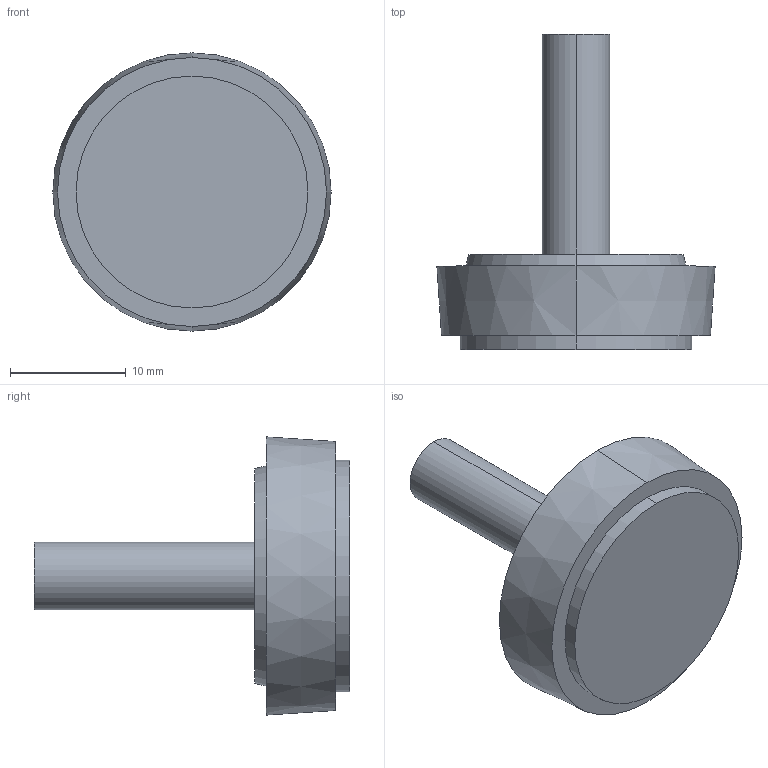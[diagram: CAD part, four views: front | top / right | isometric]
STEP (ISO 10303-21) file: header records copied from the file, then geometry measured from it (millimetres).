
FILE_DESCRIPTION (( 'STEP AP214' ), '1' );
FILE_NAME ('D25M6H20 Îáëåã÷åííàÿ.STEP', '2022-12-15T04:48:36', ( '' ), ( '' ), 'SwSTEP 2.0', 'SolidWorks 2020', '' );
FILE_SCHEMA (( 'AUTOMOTIVE_DESIGN' ));
Length unit declared in the file: millimetre
Products named in the file (1): D25M6H20 Îáëåã÷åííàÿ
Bounding box: 24 x 27.2 x 24 mm (x, y, z)
Volume: 3749.7 mm3; surface area: 1886.3 mm2
Topology: 2 solids, 2 shells, 17 faces, 30 edges, 20 vertices
Faces by surface type: plane 7, cylinder 6, cone 4
Entity records: 654 total; most frequent: DIRECTION 86, CARTESIAN_POINT 68, ORIENTED_EDGE 60, AXIS2_PLACEMENT_3D 38, EDGE_CURVE 30, UNCERTAINTY_MEASURE_WITH_UNIT 21, CIRCLE 20, PRESENTATION_LAYER_ASSIGNMENT 20
